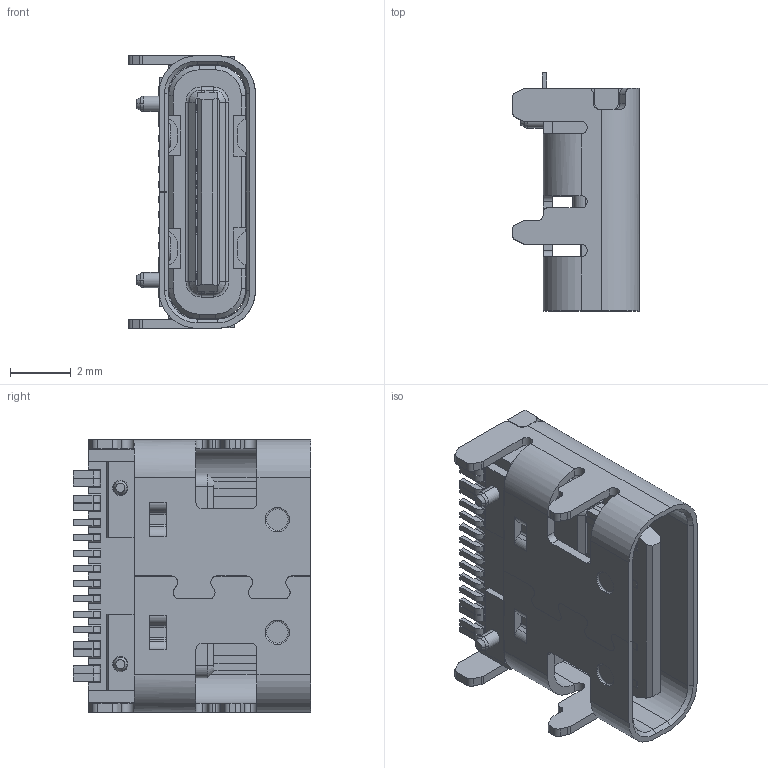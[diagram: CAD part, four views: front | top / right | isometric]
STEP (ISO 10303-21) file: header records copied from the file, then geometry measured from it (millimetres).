
FILE_DESCRIPTION (( 'STEP AP214' ), '1' );
FILE_NAME ('Same_Sky_UJ20-C-H-G-SMT-1A-P16-TR.step', '2026-02-05T03:40:06', ( '' ), ( '' ), 'SwSTEP 2.0', 'SolidWorks 2025', '' );
FILE_SCHEMA (( 'AUTOMOTIVE_DESIGN' ));
Length unit declared in the file: millimetre
Products named in the file (1): Same_Sky_UJ20-C-H-G-SMT-1A-P16-TR
Bounding box: 4.16 x 7.8 x 8.94 mm (x, y, z)
Volume: 115.9 mm3; surface area: 470.8 mm2
Topology: 1 solids, 1 shells, 619 faces, 1793 edges, 1168 vertices
Faces by surface type: plane 433, cylinder 150, torus 18, cone 16, bspline 2
Entity records: 23516 total; most frequent: CARTESIAN_POINT 3905, ORIENTED_EDGE 3586, DIRECTION 3349, EDGE_CURVE 1793, LINE 1389, VECTOR 1389, VERTEX_POINT 1168, AXIS2_PLACEMENT_3D 980
